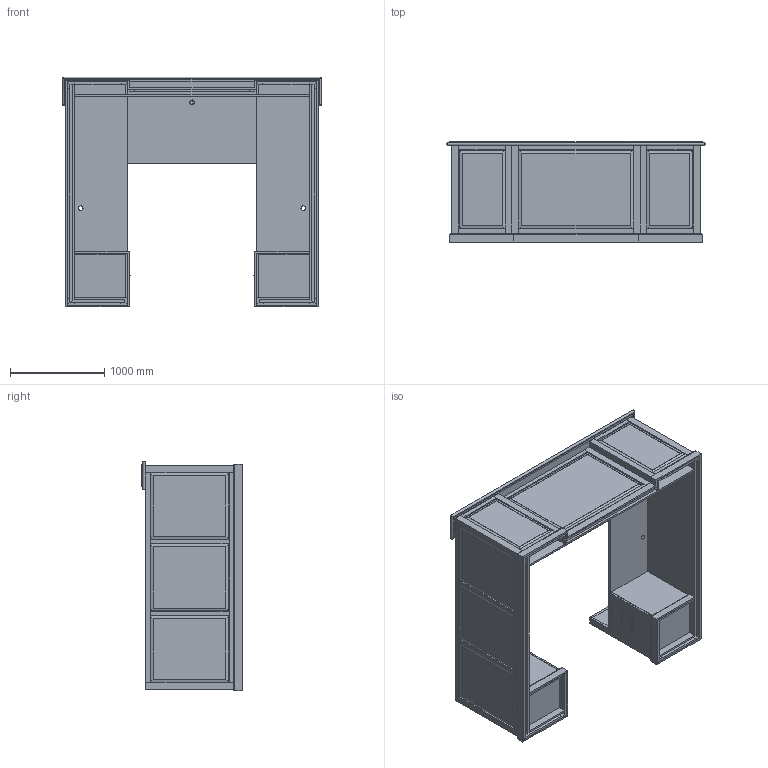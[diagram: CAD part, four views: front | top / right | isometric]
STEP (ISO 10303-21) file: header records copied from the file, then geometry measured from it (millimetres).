
FILE_DESCRIPTION(/* description */ ('','CAx-IF Rec.Pracs.---Representation and Presentation of Product Manufacturing Information (PMI)---4.0---2014-10-13'),/* implementation_level */ '2;1');
FILE_NAME(/* name */ 'RECEPTION_CAMBRIDGE 1.stp',/* time_stamp */ '2024-12-07T18:43:11-05:00',/* author */ ('mbowman'),/* organization */ (''),/* preprocessor_version */ 'ST-DEVELOPER v19.2',/* originating_system */ 'Autodesk Inventor 2023',/* authorisation */ '');
FILE_SCHEMA (('AP242_MANAGED_MODEL_BASED_3D_ENGINEERING_MIM_LF { 1 0 10303 442 1 1 4 }'));
Length unit declared in the file: inch
Products named in the file (3): CAMBRIDGE^ADMIN 1_U-SHAPE-SOLID ASSEMBLY; CAMBRIDGE^ADMIN 1_U-SHAPE-PARTS SOLID; ART DECCO^GLAM-HAFELE 110_34_286
Assembly tree (7 placements, depth 2):
  CAMBRIDGE^ADMIN 1_U-SHAPE-SOLID ASSEMBLY
    CAMBRIDGE^ADMIN 1_U-SHAPE-PARTS SOLID
    ART DECCO^GLAM-HAFELE 110_34_286  x6
Bounding box: 2743.2 x 1066.8 x 2438.4 mm (x, y, z)
Volume: 593903848.7 mm3; surface area: 56663292.4 mm2
Topology: 98 solids, 98 shells, 861 faces, 1850 edges, 1196 vertices
Faces by surface type: plane 736, cylinder 77, torus 48
Full cylindrical faces by diameter (mm): 48.26 x3
Entity records: 22892 total; most frequent: CARTESIAN_POINT 4642, DIRECTION 3332, ORIENTED_EDGE 3260, EDGE_CURVE 1630, LINE 1516, VECTOR 1516, VERTEX_POINT 1056, AXIS2_PLACEMENT_3D 908
